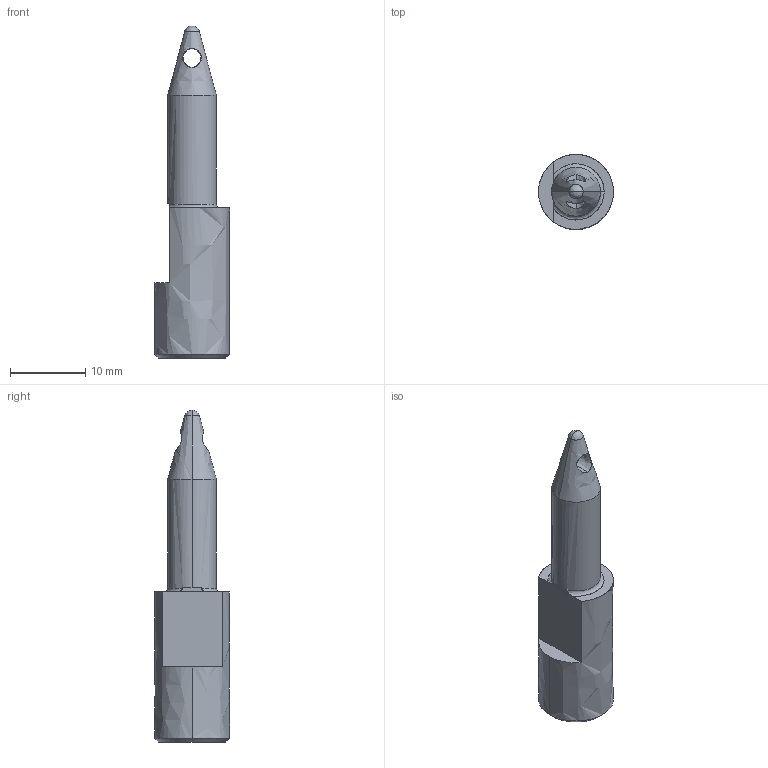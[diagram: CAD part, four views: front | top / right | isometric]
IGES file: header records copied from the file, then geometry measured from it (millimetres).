
Global section: file name: E:\UnigraphicsGraphicData\MISUMI_PRESS-PARTS\IGES\3d_sdklh10-p6.50-b15_02962_r00.igs; native system: NX V5.0; preprocessor: UGS NX IGES V5.0; author: MISUMI; date: 20110105.162516; units: millimetre
Bounding box: 10 x 10 x 44.27 mm (x, y, z)
Surface area: 1171.1 mm2 (no closed solid volume)
Topology: 0 solids, 0 shells, 20 faces, 138 edges, 136 vertices
Faces by surface type: bspline 20
